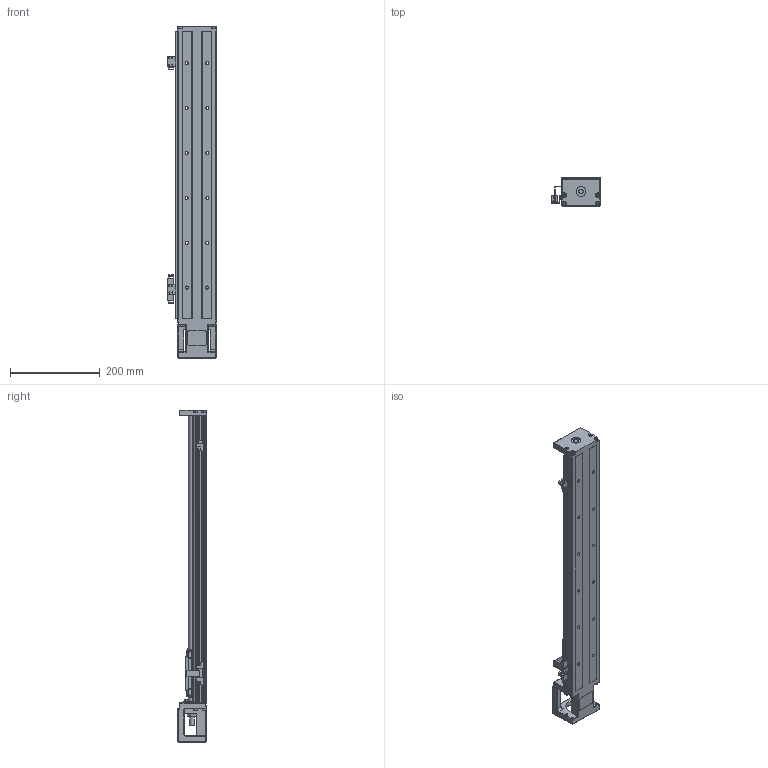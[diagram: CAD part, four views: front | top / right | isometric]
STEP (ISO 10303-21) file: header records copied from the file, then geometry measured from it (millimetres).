
FILE_DESCRIPTION (( 'STEP AP214' ), '1' );
FILE_NAME ('SFKK86-640A1-F0.STEP', '2022-05-05T03:49:23', ( '微软用户' ), ( '微软中国' ), 'SwSTEP 2.0', 'SolidWorks 2018', '' );
FILE_SCHEMA (( 'AUTOMOTIVE_DESIGN' ));
Length unit declared in the file: millimetre
Products named in the file (8): SFKK86-LR 憤癹寢耋_640; 不带盖挡光片：KK-86-S2-D2; SFKK86-F0_KKR86-ZT-P-640; SFKK86-640A1-F0; 开关固定座：KK-674S2-F; SX674嫖萇羲壽; 极限轨道与开关固定座组合_640; SFKK86-A1
Assembly tree (10 placements, depth 3):
  SFKK86-640A1-F0
    SFKK86-F0_KKR86-ZT-P-640
    SFKK86-A1
    极限轨道与开关固定座组合_640
      SFKK86-LR 憤癹寢耋_640
      开关固定座：KK-674S2-F  x2
    不带盖挡光片：KK-86-S2-D2
    SX674嫖萇羲壽  x3
Bounding box: 108.25 x 64 x 740 mm (x, y, z)
Volume: 1401327.7 mm3; surface area: 356628.8 mm2
Topology: 26 solids, 26 shells, 1501 faces, 3875 edges, 2423 vertices
Faces by surface type: plane 728, cylinder 541, cone 154, torus 47, sphere 23, bspline 8
Entity records: 52427 total; most frequent: CARTESIAN_POINT 12532, DIRECTION 7263, ORIENTED_EDGE 6992, EDGE_CURVE 3496, AXIS2_PLACEMENT_3D 2556, VERTEX_POINT 2229, VECTOR 2151, LINE 2151
